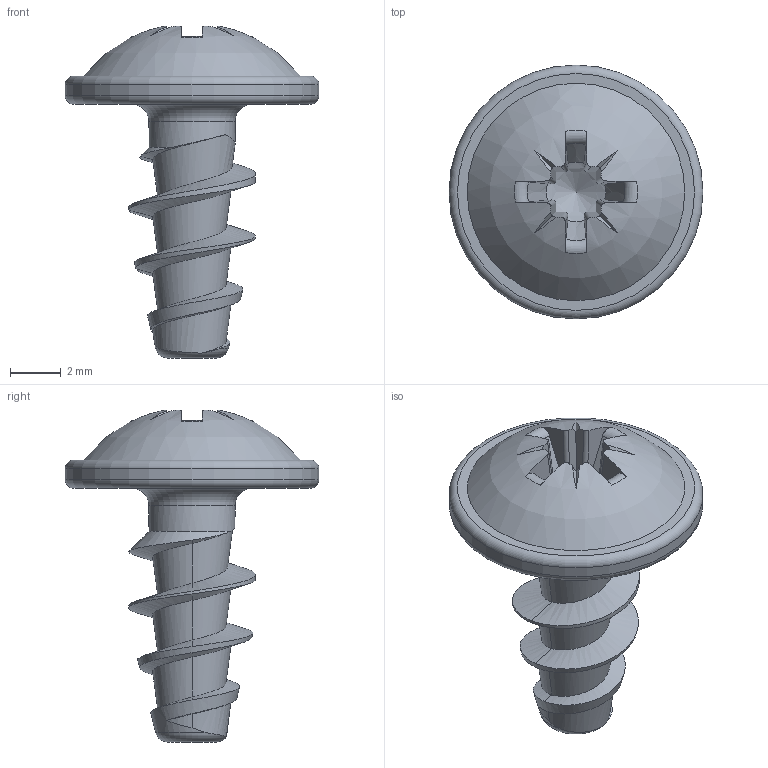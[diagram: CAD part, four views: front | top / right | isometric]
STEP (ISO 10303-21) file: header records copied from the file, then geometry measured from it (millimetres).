
FILE_DESCRIPTION(/* description */ (''),/* implementation_level */ '2;1');
FILE_NAME(/* name */ 'KN1031-Neu-STS-50x10-Z2.step',/* time_stamp */ '2017-10-12T14:08:09+02:00',/* author */ (''),/* organization */ (''),/* preprocessor_version */ 'ST-DEVELOPER v16',/* originating_system */ 'SIEMENS PLM Software NX 10.0',/* authorisation */ '');
FILE_SCHEMA (('AUTOMOTIVE_DESIGN { 1 0 10303 214 3 1 1 1 }'));
Length unit declared in the file: millimetre
Products named in the file (1): KN1031-Neu-STS-50x10-Z2
Bounding box: 10 x 10 x 13.08 mm (x, y, z)
Volume: 222.6 mm3; surface area: 359.4 mm2
Topology: 1 solids, 1 shells, 68 faces, 182 edges, 117 vertices
Faces by surface type: plane 27, bspline 14, cylinder 11, torus 8, cone 7, sphere 1
Full cylindrical faces by diameter (mm): 3.39 x1, 10 x1
Entity records: 3152 total; most frequent: CARTESIAN_POINT 1653, ORIENTED_EDGE 336, DIRECTION 249, EDGE_CURVE 168, VERTEX_POINT 112, AXIS2_PLACEMENT_3D 103, EDGE_LOOP 77, B_SPLINE_CURVE_WITH_KNOTS 77
